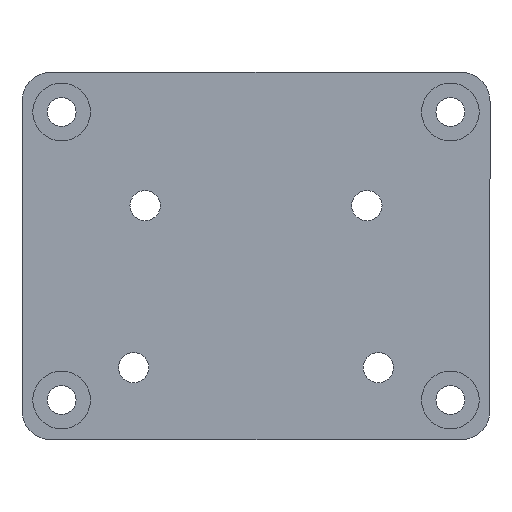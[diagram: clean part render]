
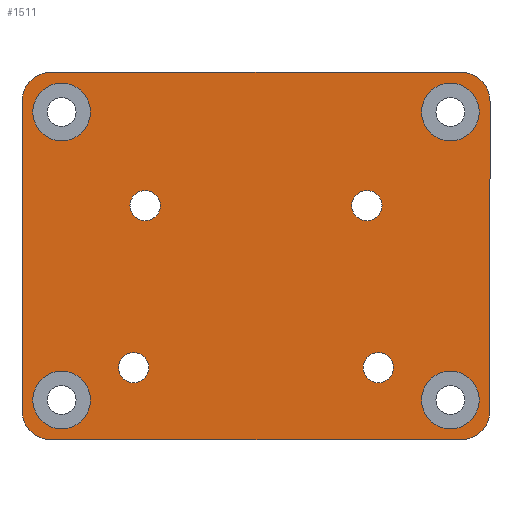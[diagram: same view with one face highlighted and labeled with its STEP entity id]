
A CAD part, front view. The second image highlights one B-rep face of the part: STEP entity #1511.
In plain terms, the highlighted planar face has unit normal (0, -1, 0).
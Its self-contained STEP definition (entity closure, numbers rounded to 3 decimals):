
#49=CARTESIAN_POINT('',(-14.25,-3.,12.75));
#50=VERTEX_POINT('',#49);
#53=CARTESIAN_POINT('',(-14.25,-3.,12.75));
#54=DIRECTION('',(-1.,0.,0.));
#55=VECTOR('',#54,1.);
#56=LINE('',#53,#55);
#57=CARTESIAN_POINT('',(14.25,-3.,12.75));
#58=VERTEX_POINT('',#57);
#59=EDGE_CURVE('',#58,#50,#56,.T.);
#479=CARTESIAN_POINT('',(16.25,-3.,10.75));
#480=VERTEX_POINT('',#479);
#483=CARTESIAN_POINT('',(16.25,-3.,10.75));
#484=DIRECTION('',(0.,0.,1.));
#485=VECTOR('',#484,1.);
#486=LINE('',#483,#485);
#487=CARTESIAN_POINT('',(16.25,-3.,-10.75));
#488=VERTEX_POINT('',#487);
#489=EDGE_CURVE('',#488,#480,#486,.T.);
#511=CARTESIAN_POINT('',(14.25,-3.,-12.75));
#512=VERTEX_POINT('',#511);
#515=CARTESIAN_POINT('',(14.25,-3.,-12.75));
#516=DIRECTION('',(1.,0.,0.));
#517=VECTOR('',#516,1.);
#518=LINE('',#515,#517);
#519=CARTESIAN_POINT('',(-14.25,-3.,-12.75));
#520=VERTEX_POINT('',#519);
#521=EDGE_CURVE('',#520,#512,#518,.T.);
#542=CARTESIAN_POINT('',(-16.25,-3.,-10.75));
#543=VERTEX_POINT('',#542);
#546=CARTESIAN_POINT('',(-16.25,-3.,-10.75));
#547=DIRECTION('',(0.,0.,-1.));
#548=VECTOR('',#547,1.);
#549=LINE('',#546,#548);
#550=CARTESIAN_POINT('',(-16.25,-3.,10.75));
#551=VERTEX_POINT('',#550);
#552=EDGE_CURVE('',#551,#543,#549,.T.);
#943=CARTESIAN_POINT('',(13.5,-3.,10.));
#944=DIRECTION('',(0.,-1.,0.));
#945=DIRECTION('',(0.,0.,-1.));
#946=AXIS2_PLACEMENT_3D('',#943,#944,#945);
#947=CIRCLE('',#946,2.);
#948=CARTESIAN_POINT('',(13.5,-3.,8.));
#949=VERTEX_POINT('',#948);
#950=EDGE_CURVE('',#949,#949,#947,.T.);
#1003=CARTESIAN_POINT('',(-13.5,-3.,10.));
#1004=DIRECTION('',(0.,-1.,0.));
#1005=DIRECTION('',(0.,0.,-1.));
#1006=AXIS2_PLACEMENT_3D('',#1003,#1004,#1005);
#1007=CIRCLE('',#1006,2.);
#1008=CARTESIAN_POINT('',(-13.5,-3.,8.));
#1009=VERTEX_POINT('',#1008);
#1010=EDGE_CURVE('',#1009,#1009,#1007,.T.);
#1063=CARTESIAN_POINT('',(-13.5,-3.,-10.));
#1064=DIRECTION('',(0.,-1.,0.));
#1065=DIRECTION('',(0.,0.,-1.));
#1066=AXIS2_PLACEMENT_3D('',#1063,#1064,#1065);
#1067=CIRCLE('',#1066,2.);
#1068=CARTESIAN_POINT('',(-13.5,-3.,-12.));
#1069=VERTEX_POINT('',#1068);
#1070=EDGE_CURVE('',#1069,#1069,#1067,.T.);
#1123=CARTESIAN_POINT('',(13.5,-3.,-10.));
#1124=DIRECTION('',(0.,-1.,0.));
#1125=DIRECTION('',(0.,0.,-1.));
#1126=AXIS2_PLACEMENT_3D('',#1123,#1124,#1125);
#1127=CIRCLE('',#1126,2.);
#1128=CARTESIAN_POINT('',(13.5,-3.,-12.));
#1129=VERTEX_POINT('',#1128);
#1130=EDGE_CURVE('',#1129,#1129,#1127,.T.);
#1151=CARTESIAN_POINT('',(8.5,-3.,-7.75));
#1152=DIRECTION('',(0.,-1.,0.));
#1153=DIRECTION('',(0.,0.,-1.));
#1154=AXIS2_PLACEMENT_3D('',#1151,#1152,#1153);
#1155=CIRCLE('',#1154,1.05);
#1156=CARTESIAN_POINT('',(8.5,-3.,-8.8));
#1157=VERTEX_POINT('',#1156);
#1158=EDGE_CURVE('',#1157,#1157,#1155,.T.);
#1211=CARTESIAN_POINT('',(-8.5,-3.,-7.75));
#1212=DIRECTION('',(0.,-1.,0.));
#1213=DIRECTION('',(0.,0.,-1.));
#1214=AXIS2_PLACEMENT_3D('',#1211,#1212,#1213);
#1215=CIRCLE('',#1214,1.05);
#1216=CARTESIAN_POINT('',(-8.5,-3.,-8.8));
#1217=VERTEX_POINT('',#1216);
#1218=EDGE_CURVE('',#1217,#1217,#1215,.T.);
#1271=CARTESIAN_POINT('',(-7.7,-3.,3.5));
#1272=DIRECTION('',(0.,-1.,0.));
#1273=DIRECTION('',(0.,0.,-1.));
#1274=AXIS2_PLACEMENT_3D('',#1271,#1272,#1273);
#1275=CIRCLE('',#1274,1.05);
#1276=CARTESIAN_POINT('',(-7.7,-3.,2.45));
#1277=VERTEX_POINT('',#1276);
#1278=EDGE_CURVE('',#1277,#1277,#1275,.T.);
#1331=CARTESIAN_POINT('',(7.7,-3.,3.5));
#1332=DIRECTION('',(0.,-1.,0.));
#1333=DIRECTION('',(0.,0.,-1.));
#1334=AXIS2_PLACEMENT_3D('',#1331,#1332,#1333);
#1335=CIRCLE('',#1334,1.05);
#1336=CARTESIAN_POINT('',(7.7,-3.,2.45));
#1337=VERTEX_POINT('',#1336);
#1338=EDGE_CURVE('',#1337,#1337,#1335,.T.);
#1407=CARTESIAN_POINT('',(14.25,-3.,-10.75));
#1408=DIRECTION('',(0.,-1.,0.));
#1409=DIRECTION('',(0.,0.,1.));
#1410=AXIS2_PLACEMENT_3D('',#1407,#1408,#1409);
#1411=CIRCLE('',#1410,2.);
#1412=EDGE_CURVE('',#512,#488,#1411,.T.);
#1425=CARTESIAN_POINT('',(14.25,-3.,10.75));
#1426=DIRECTION('',(0.,-1.,0.));
#1427=DIRECTION('',(0.,0.,1.));
#1428=AXIS2_PLACEMENT_3D('',#1425,#1426,#1427);
#1429=CIRCLE('',#1428,2.);
#1430=EDGE_CURVE('',#480,#58,#1429,.T.);
#1443=CARTESIAN_POINT('',(-14.25,-3.,-10.75));
#1444=DIRECTION('',(0.,-1.,0.));
#1445=DIRECTION('',(0.,0.,1.));
#1446=AXIS2_PLACEMENT_3D('',#1443,#1444,#1445);
#1447=CIRCLE('',#1446,2.);
#1448=EDGE_CURVE('',#543,#520,#1447,.T.);
#1461=CARTESIAN_POINT('',(-14.25,-3.,10.75));
#1462=DIRECTION('',(0.,-1.,0.));
#1463=DIRECTION('',(0.,0.,1.));
#1464=AXIS2_PLACEMENT_3D('',#1461,#1462,#1463);
#1465=CIRCLE('',#1464,2.);
#1466=EDGE_CURVE('',#50,#551,#1465,.T.);
#1472=CARTESIAN_POINT('',(14.25,-3.,10.75));
#1473=DIRECTION('',(0.,1.,0.));
#1474=DIRECTION('',(0.,0.,1.));
#1475=AXIS2_PLACEMENT_3D('',#1472,#1473,#1474);
#1476=PLANE('',#1475);
#1477=ORIENTED_EDGE('',*,*,#1430,.T.);
#1478=ORIENTED_EDGE('',*,*,#59,.T.);
#1479=ORIENTED_EDGE('',*,*,#1466,.T.);
#1480=ORIENTED_EDGE('',*,*,#552,.T.);
#1481=ORIENTED_EDGE('',*,*,#1448,.T.);
#1482=ORIENTED_EDGE('',*,*,#521,.T.);
#1483=ORIENTED_EDGE('',*,*,#1412,.T.);
#1484=ORIENTED_EDGE('',*,*,#489,.T.);
#1485=EDGE_LOOP('',(#1477,#1478,#1479,#1480,#1481,#1482,#1483,#1484));
#1486=ORIENTED_EDGE('',*,*,#1010,.F.);
#1487=EDGE_LOOP('',(#1486));
#1488=ORIENTED_EDGE('',*,*,#950,.F.);
#1489=EDGE_LOOP('',(#1488));
#1490=ORIENTED_EDGE('',*,*,#1130,.F.);
#1491=EDGE_LOOP('',(#1490));
#1492=ORIENTED_EDGE('',*,*,#1070,.F.);
#1493=EDGE_LOOP('',(#1492));
#1494=ORIENTED_EDGE('',*,*,#1278,.F.);
#1495=EDGE_LOOP('',(#1494));
#1496=ORIENTED_EDGE('',*,*,#1218,.F.);
#1497=EDGE_LOOP('',(#1496));
#1498=ORIENTED_EDGE('',*,*,#1158,.F.);
#1499=EDGE_LOOP('',(#1498));
#1500=ORIENTED_EDGE('',*,*,#1338,.F.);
#1501=EDGE_LOOP('',(#1500));
#1502=FACE_OUTER_BOUND('',#1485,.T.);
#1503=FACE_BOUND('',#1487,.T.);
#1504=FACE_BOUND('',#1489,.T.);
#1505=FACE_BOUND('',#1491,.T.);
#1506=FACE_BOUND('',#1493,.T.);
#1507=FACE_BOUND('',#1495,.T.);
#1508=FACE_BOUND('',#1497,.T.);
#1509=FACE_BOUND('',#1499,.T.);
#1510=FACE_BOUND('',#1501,.T.);
#1511=ADVANCED_FACE('',(#1502,#1503,#1504,#1505,#1506,#1507,#1508,#1509,#1510),#1476,.F.);
